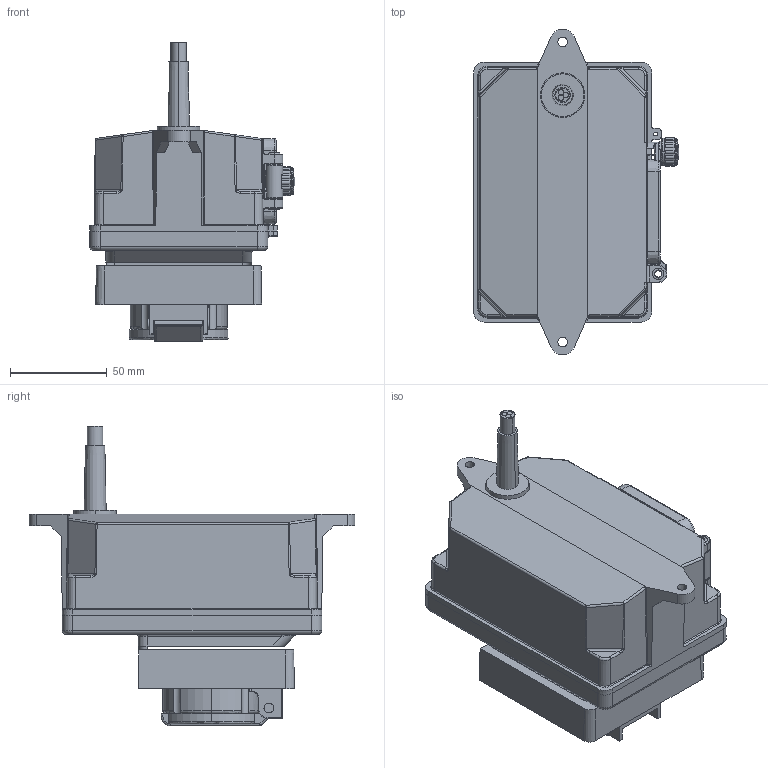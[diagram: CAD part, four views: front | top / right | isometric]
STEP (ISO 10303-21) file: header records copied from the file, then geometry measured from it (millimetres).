
FILE_DESCRIPTION (( 'STEP AP214' ), '1' );
FILE_NAME ('HSW4045 Neue Norm Typ 13.STEP', '2022-01-18T09:02:31', ( '' ), ( '' ), 'SwSTEP 2.0', 'SolidWorks 2021', '' );
FILE_SCHEMA (( 'AUTOMOTIVE_DESIGN' ));
Length unit declared in the file: millimetre
Products named in the file (1): HSW4045 Neue Norm Typ 13
Bounding box: 105.82 x 168 x 154.7 mm (x, y, z)
Surface area: 85775.4 mm2 (no closed solid volume)
Topology: 0 solids, 35 shells, 823 faces, 3003 edges, 2090 vertices
Faces by surface type: plane 291, cylinder 282, bspline 83, torus 80, cone 59, sphere 28
Entity records: 46683 total; most frequent: CARTESIAN_POINT 13496, DIRECTION 4778, ORIENTED_EDGE 4710, EDGE_CURVE 2988, VERTEX_POINT 2089, AXIS2_PLACEMENT_3D 1629, LINE 1520, VECTOR 1520
